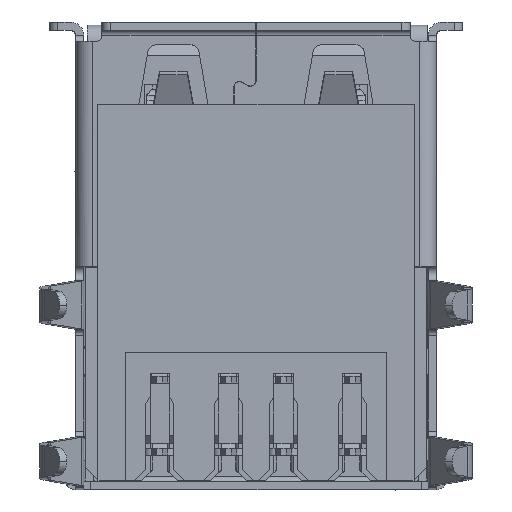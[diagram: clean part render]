
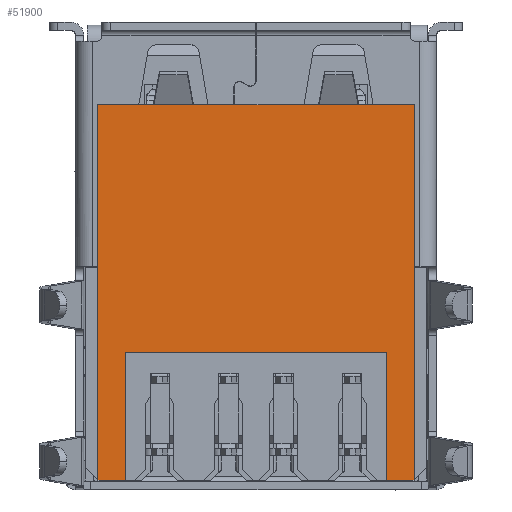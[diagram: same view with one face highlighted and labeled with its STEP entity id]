
A CAD part, front view. The second image highlights one B-rep face of the part: STEP entity #51900.
In plain terms, the highlighted planar face has unit normal (0, -1, 0).
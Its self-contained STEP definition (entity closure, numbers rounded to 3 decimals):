
#39 = DIRECTION ( 'NONE',  ( 0., 0., 1. ) ) ;
#2456 = CARTESIAN_POINT ( 'NONE',  ( -6.107, 0.425, 28.945 ) ) ;
#4283 = CARTESIAN_POINT ( 'NONE',  ( 2.913, 0.425, 24.195 ) ) ;
#4623 = VECTOR ( 'NONE', #34098, 1000. ) ;
#7745 = CARTESIAN_POINT ( 'NONE',  ( 0.703, 0.425, 34.695 ) ) ;
#8362 = CARTESIAN_POINT ( 'NONE',  ( 5.238, 0.425, 33.695 ) ) ;
#10348 = ORIENTED_EDGE ( 'NONE', *, *, #55106, .F. ) ;
#11329 = ORIENTED_EDGE ( 'NONE', *, *, #75895, .T. ) ;
#14197 = DIRECTION ( 'NONE',  ( 1., 0., 0. ) ) ;
#14518 = CARTESIAN_POINT ( 'NONE',  ( 5.238, 0.425, 24.195 ) ) ;
#15600 = VERTEX_POINT ( 'NONE', #48707 ) ;
#15686 = DIRECTION ( 'NONE',  ( 0., 0., -1. ) ) ;
#17576 = CARTESIAN_POINT ( 'NONE',  ( 7.563, 0.425, 24.195 ) ) ;
#18194 = ORIENTED_EDGE ( 'NONE', *, *, #54562, .T. ) ;
#18452 = CARTESIAN_POINT ( 'NONE',  ( 7.513, 0.425, 34.695 ) ) ;
#18839 = VERTEX_POINT ( 'NONE', #43077 ) ;
#19233 = ORIENTED_EDGE ( 'NONE', *, *, #61563, .F. ) ;
#19841 = CARTESIAN_POINT ( 'NONE',  ( -6.107, 0.425, 34.695 ) ) ;
#21256 = FACE_OUTER_BOUND ( 'NONE', #63620, .T. ) ;
#21265 = DIRECTION ( 'NONE',  ( 1., 0., 0. ) ) ;
#23013 = DIRECTION ( 'NONE',  ( 0., 0., -1. ) ) ;
#23394 = VERTEX_POINT ( 'NONE', #4283 ) ;
#23800 = LINE ( 'NONE', #2456, #36877 ) ;
#24070 = EDGE_CURVE ( 'NONE', #25472, #25208, #66249, .T. ) ;
#24096 = CARTESIAN_POINT ( 'NONE',  ( 7.563, 0.425, 23.245 ) ) ;
#25208 = VERTEX_POINT ( 'NONE', #69176 ) ;
#25472 = VERTEX_POINT ( 'NONE', #19841 ) ;
#25910 = CARTESIAN_POINT ( 'NONE',  ( -6.107, 0.425, 23.195 ) ) ;
#26244 = ORIENTED_EDGE ( 'NONE', *, *, #24070, .F. ) ;
#27084 = VERTEX_POINT ( 'NONE', #58479 ) ;
#28068 = ORIENTED_EDGE ( 'NONE', *, *, #52935, .F. ) ;
#28870 = EDGE_CURVE ( 'NONE', #23394, #46906, #63407, .T. ) ;
#28882 = EDGE_CURVE ( 'NONE', #42562, #18839, #46279, .T. ) ;
#29062 = LINE ( 'NONE', #24096, #44270 ) ;
#30544 = DIRECTION ( 'NONE',  ( -0.707, 0., -0.707 ) ) ;
#32545 = CARTESIAN_POINT ( 'NONE',  ( 0.703, 0.425, 23.195 ) ) ;
#32667 = LINE ( 'NONE', #32545, #64938 ) ;
#33905 = DIRECTION ( 'NONE',  ( 1., 0., 0. ) ) ;
#34075 = VERTEX_POINT ( 'NONE', #25910 ) ;
#34098 = DIRECTION ( 'NONE',  ( 0., 0., -1. ) ) ;
#34284 = ORIENTED_EDGE ( 'NONE', *, *, #28882, .T. ) ;
#36877 = VECTOR ( 'NONE', #60453, 1000. ) ;
#37884 = DIRECTION ( 'NONE',  ( 0.707, 0., -0.707 ) ) ;
#38611 = DIRECTION ( 'NONE',  ( 0., 1., 0. ) ) ;
#39059 = DIRECTION ( 'NONE',  ( 1., 0., 0. ) ) ;
#40671 = CARTESIAN_POINT ( 'NONE',  ( 7.563, 0.425, 23.245 ) ) ;
#40710 = ORIENTED_EDGE ( 'NONE', *, *, #52727, .F. ) ;
#42562 = VERTEX_POINT ( 'NONE', #55033 ) ;
#43077 = CARTESIAN_POINT ( 'NONE',  ( 7.563, 0.425, 33.695 ) ) ;
#44270 = VECTOR ( 'NONE', #30544, 1000. ) ;
#44840 = PLANE ( 'NONE',  #73695 ) ;
#46279 = LINE ( 'NONE', #8362, #78517 ) ;
#46906 = VERTEX_POINT ( 'NONE', #17576 ) ;
#48707 = CARTESIAN_POINT ( 'NONE',  ( 7.563, 0.425, 34.645 ) ) ;
#51322 = VECTOR ( 'NONE', #15686, 1000. ) ;
#51900 = ADVANCED_FACE ( 'NONE', ( #21256 ), #44840, .F. ) ;
#52727 = EDGE_CURVE ( 'NONE', #46906, #64971, #68442, .T. ) ;
#52935 = EDGE_CURVE ( 'NONE', #64971, #27084, #29062, .T. ) ;
#54562 = EDGE_CURVE ( 'NONE', #25472, #34075, #23800, .T. ) ;
#55033 = CARTESIAN_POINT ( 'NONE',  ( 2.913, 0.425, 33.695 ) ) ;
#55106 = EDGE_CURVE ( 'NONE', #15600, #18839, #71047, .T. ) ;
#58479 = CARTESIAN_POINT ( 'NONE',  ( 7.513, 0.425, 23.195 ) ) ;
#60453 = DIRECTION ( 'NONE',  ( 0., 0., -1. ) ) ;
#60775 = CARTESIAN_POINT ( 'NONE',  ( 7.563, 0.425, 28.945 ) ) ;
#61421 = VECTOR ( 'NONE', #33905, 1000. ) ;
#61563 = EDGE_CURVE ( 'NONE', #25208, #15600, #81157, .T. ) ;
#61641 = CARTESIAN_POINT ( 'NONE',  ( 2.913, 0.425, 28.945 ) ) ;
#62068 = VECTOR ( 'NONE', #23013, 1000. ) ;
#63407 = LINE ( 'NONE', #14518, #61421 ) ;
#63620 = EDGE_LOOP ( 'NONE', ( #40710, #81068, #79527, #34284, #10348, #19233, #26244, #18194, #11329, #28068 ) ) ;
#64938 = VECTOR ( 'NONE', #39059, 1000. ) ;
#64971 = VERTEX_POINT ( 'NONE', #40671 ) ;
#66249 = LINE ( 'NONE', #7745, #81390 ) ;
#68442 = LINE ( 'NONE', #60775, #51322 ) ;
#69143 = EDGE_CURVE ( 'NONE', #42562, #23394, #77155, .T. ) ;
#69176 = CARTESIAN_POINT ( 'NONE',  ( 7.513, 0.425, 34.695 ) ) ;
#71047 = LINE ( 'NONE', #79179, #4623 ) ;
#73695 = AXIS2_PLACEMENT_3D ( 'NONE', #77175, #38611, #39 ) ;
#75895 = EDGE_CURVE ( 'NONE', #34075, #27084, #32667, .T. ) ;
#77155 = LINE ( 'NONE', #61641, #62068 ) ;
#77175 = CARTESIAN_POINT ( 'NONE',  ( 0.728, 0.425, 28.945 ) ) ;
#78517 = VECTOR ( 'NONE', #21265, 1000. ) ;
#79140 = VECTOR ( 'NONE', #37884, 1000. ) ;
#79179 = CARTESIAN_POINT ( 'NONE',  ( 7.563, 0.425, 28.945 ) ) ;
#79527 = ORIENTED_EDGE ( 'NONE', *, *, #69143, .F. ) ;
#81068 = ORIENTED_EDGE ( 'NONE', *, *, #28870, .F. ) ;
#81157 = LINE ( 'NONE', #18452, #79140 ) ;
#81390 = VECTOR ( 'NONE', #14197, 1000. ) ;
